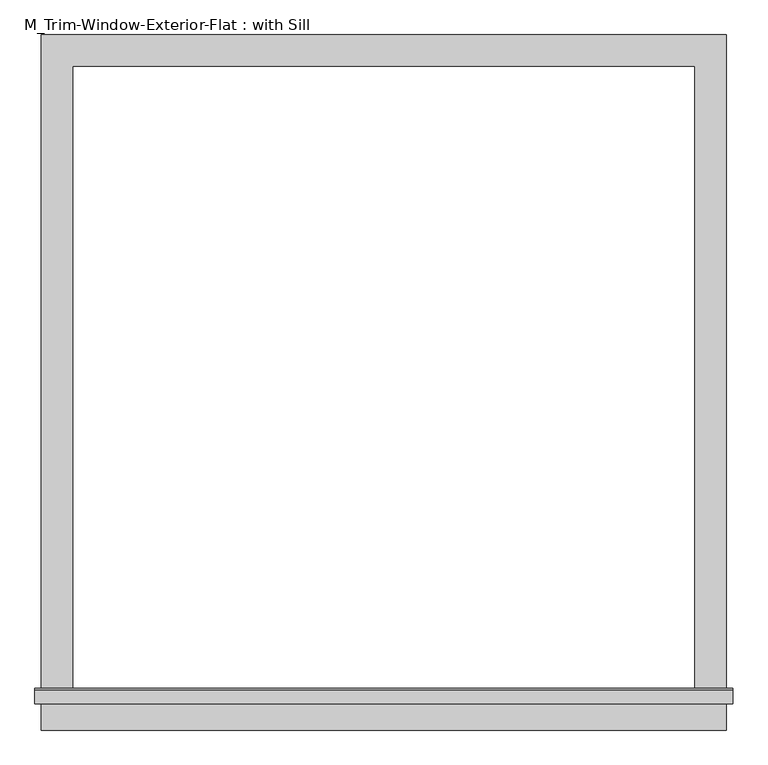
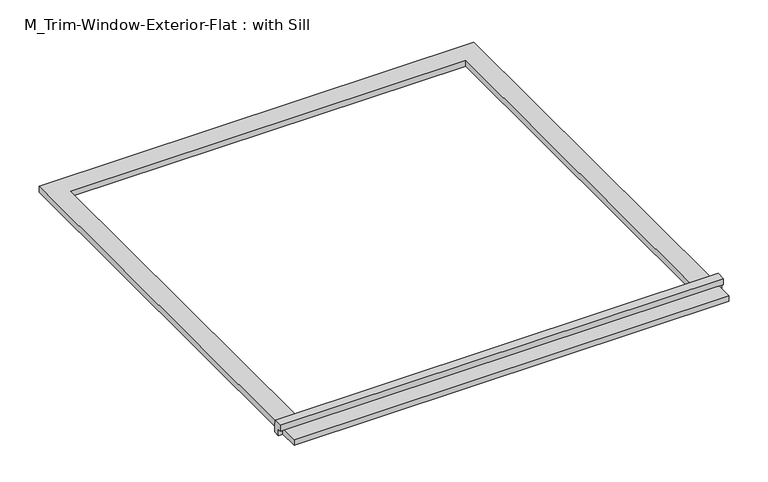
"""IFC4 building model written with IfcOpenShell, lengths in millimetres: proxy geometry, M_Trim-Window-Exterior-Flat : with Sill."""

from ifc_helpers import new_model, si_unit, frame, origin, origin_with_axes, place, context, project, spatial, polyline, outline, extrude, source, transform, mapped, element, save


def m_trim_window_exterior_flat_with_sill_46af0b0e(model_context):
    return source(origin(), model_context, "Body", "SweptSolid", [
        extrude(outline(polyline([(660.0, -1220.4323709), (660.0, -1280.4323709), (-660.0, -1280.4323709), (-660.0, -1220.4323709), (660.0, -1220.4323709)])), origin_with_axes(), (0.0, 0.0, 1.0), 19.05),
        extrude(outline(polyline([(-1230.0, 38.1), (-1202.4580645, 38.1), (-1200.0, 19.05), (-1200.0, 0.0), (-1220.4323709, 0.0), (-1220.4323709, 19.05), (-1230.0, 19.05), (-1230.0, 38.1)])), frame((-672.7, 0.0, 0.0), z_axis=(1.0, 0.0, 0.0), x_axis=(0.0, 1.0, 0.0)), (0.0, 0.0, 1.0), 1345.4),
        extrude(outline(polyline([(-660.0, 60.0), (660.0, 60.0), (660.0, -1200.0), (600.0, -1200.0), (600.0, 0.0), (-600.0, 0.0), (-600.0, -1200.0), (-660.0, -1200.0), (-660.0, 60.0)])), origin_with_axes(), (0.0, 0.0, 1.0), 19.05),
    ])


if __name__ == "__main__":
    model = new_model("IFC4")
    model_context = context("Model", 3, world=origin())
    ifc_project = project(units=[si_unit("LENGTHUNIT", "METRE", prefix="MILLI")], contexts=[model_context])
    site = spatial("IfcSite", under=ifc_project)
    building = spatial("IfcBuilding", under=site)
    placement = place(None, origin())
    m_trim_window_exterior_flat_with_sill_shape = m_trim_window_exterior_flat_with_sill_46af0b0e(model_context)
    element("IfcBuildingElementProxy", 1, Name="M_Trim-Window-Exterior-Flat : with Sill", ObjectType="M_Trim-Window-Exterior-Flat : with Sill", at=placement, inside=building, context=model_context, shape_type="MappedRepresentation", body=[
        mapped(m_trim_window_exterior_flat_with_sill_shape, transform((0.0, 0.0, 0.0), x_axis=(1.0, 0.0, 0.0), y_axis=(0.0, 1.0, 0.0), z_axis=(0.0, 0.0, 1.0))),
    ])
    save(model, "model.ifc")
